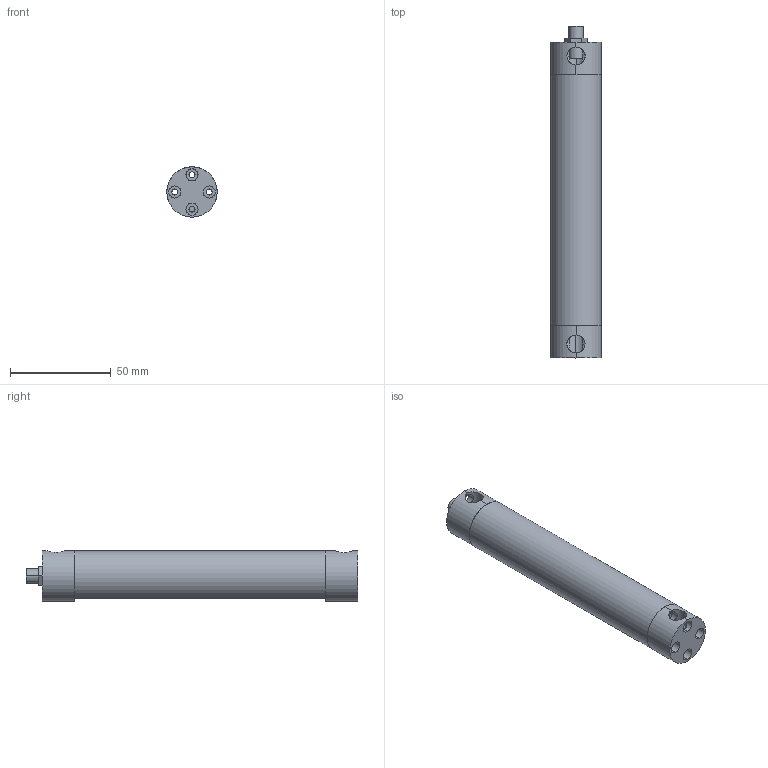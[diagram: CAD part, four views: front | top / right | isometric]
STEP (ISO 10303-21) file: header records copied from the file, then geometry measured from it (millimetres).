
FILE_DESCRIPTION (( 'STEP AP214' ), '1' );
FILE_NAME ('Slimbar 5 LED.STEP', '2011-02-15T15:30:30', ( 'JRLEDS' ), ( '' ), 'SwSTEP 2.0', 'SolidWorks 2010', '' );
FILE_SCHEMA (( 'AUTOMOTIVE_DESIGN' ));
Length unit declared in the file: millimetre
Products named in the file (7): Profilé tube 125mm; Embout non percé; Circuit 5 XPE 10mm; Diffusant 125mm; Connecteur M8; Slimbar 5 LED
Assembly tree (6 placements, depth 2):
  Slimbar 5 LED
    Circuit 5 XPE 10mm
    Embout non percé
    Diffusant 125mm
    Profilé tube 125mm
    Embout non percé
    Connecteur M8
Bounding box: 25.01 x 165 x 25.02 mm (x, y, z)
Volume: 42639.9 mm3; surface area: 37537 mm2
Topology: 6 solids, 6 shells, 187 faces, 471 edges, 312 vertices
Faces by surface type: plane 90, cylinder 84, cone 13
Entity records: 6670 total; most frequent: CARTESIAN_POINT 1541, DIRECTION 985, ORIENTED_EDGE 942, EDGE_CURVE 471, AXIS2_PLACEMENT_3D 366, VERTEX_POINT 312, VECTOR 253, LINE 253
